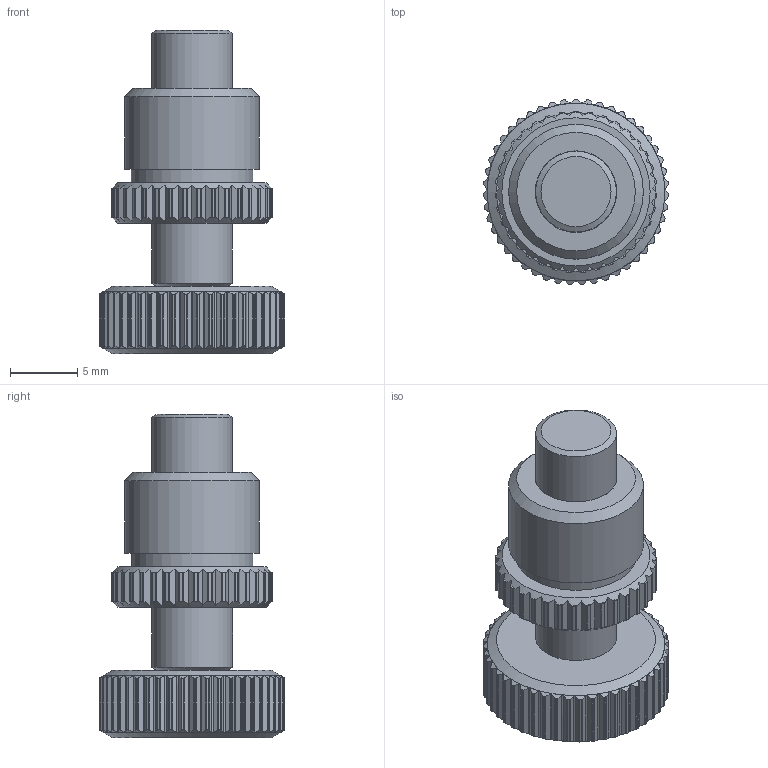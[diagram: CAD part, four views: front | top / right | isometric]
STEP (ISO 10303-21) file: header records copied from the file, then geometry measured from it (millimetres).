
FILE_DESCRIPTION(/* description */ (''),/* implementation_level */ '2;1');
FILE_NAME(/* name */ 'U:\KONSTRUKTORIAI\DOKUMENTACIJA\9\9S127BM\step\9S127BM-7.stp',/* time_stamp */ '2017-02-27T10:04:40+02:00',/* author */ ('dsgn33'),/* organization */ (''),/* preprocessor_version */ 'ST-DEVELOPER v15.2',/* originating_system */ 'Autodesk Inventor 2014',/* authorisation */ '');
FILE_SCHEMA (('AUTOMOTIVE_DESIGN { 1 0 10303 214 3 1 1 }'));
Length unit declared in the file: millimetre
Products named in the file (2): Part2; Assembly1
Bounding box: 13.8 x 13.79 x 24 mm (x, y, z)
Volume: 1775 mm3; surface area: 1311.1 mm2
Topology: 1 solids, 3 shells, 690 faces, 2033 edges, 1351 vertices
Faces by surface type: cylinder 303, plane 301, bspline 71, cone 15
Full cylindrical faces by diameter (mm): 1.5 x1, 2 x1, 3 x1, 3.3 x1, 6 x2, 9 x1, 10 x1, 13.2 x2
Entity records: 24011 total; most frequent: CARTESIAN_POINT 7413, ORIENTED_EDGE 3988, DIRECTION 2895, EDGE_CURVE 1994, VERTEX_POINT 1337, AXIS2_PLACEMENT_3D 1043, LINE 809, VECTOR 809
